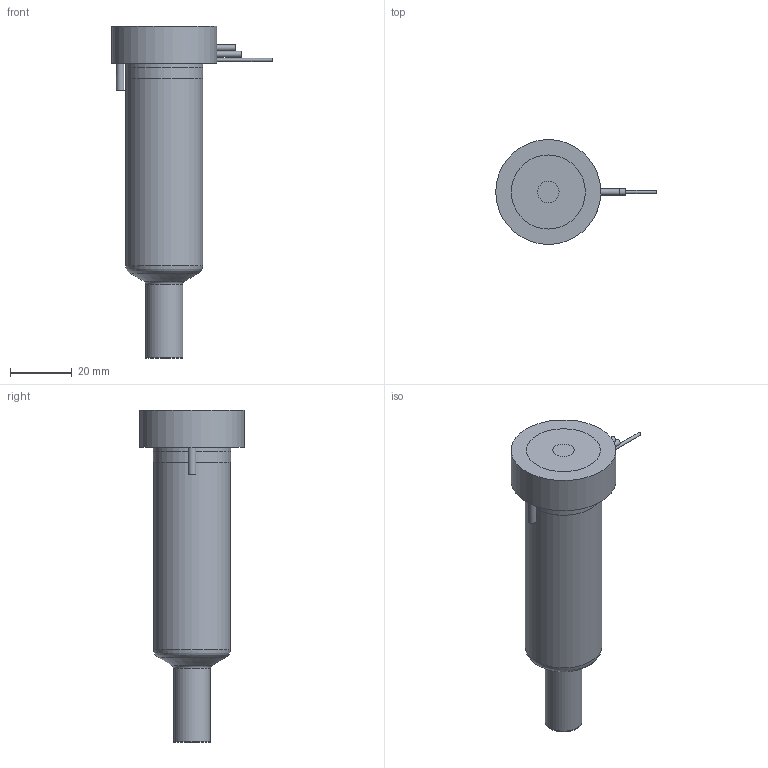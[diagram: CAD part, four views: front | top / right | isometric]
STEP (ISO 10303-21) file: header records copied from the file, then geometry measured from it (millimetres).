
FILE_DESCRIPTION(/* description */ (''),/* implementation_level */ '2;1');
FILE_NAME(/* name */ 'MXYCN16075P4F_250C_a',/* time_stamp */ '2016-02-26T13:57:50+13:00',/* author */ (''),/* organization */ (''),/* preprocessor_version */ 'ST-DEVELOPER v9',/* originating_system */ 'UGS - NX 4.0',/* authorisation */ '');
FILE_SCHEMA (('CONFIG_CONTROL_DESIGN'));
Length unit declared in the file: millimetre
Products named in the file (1): matt70754g6b
Bounding box: 51.95 x 34 x 107.53 mm (x, y, z)
Volume: 79851.8 mm3; surface area: 18280.4 mm2
Topology: 2 solids, 2 shells, 71 faces, 156 edges, 102 vertices
Faces by surface type: plane 31, cylinder 26, torus 7, cone 5, bspline 1, sphere 1
Full cylindrical faces by diameter (mm): 1 x2, 2 x3, 2.5 x1, 5 x1, 7 x1, 11.61 x1, 11.995 x2, 14.8 x1, 20.8 x1, 24.9 x1, 25 x2, 34 x1
Entity records: 2121 total; most frequent: CARTESIAN_POINT 614, DIRECTION 314, ORIENTED_EDGE 234, AXIS2_PLACEMENT_3D 141, EDGE_CURVE 117, EDGE_LOOP 114, VERTEX_POINT 91, ADVANCED_FACE 71
